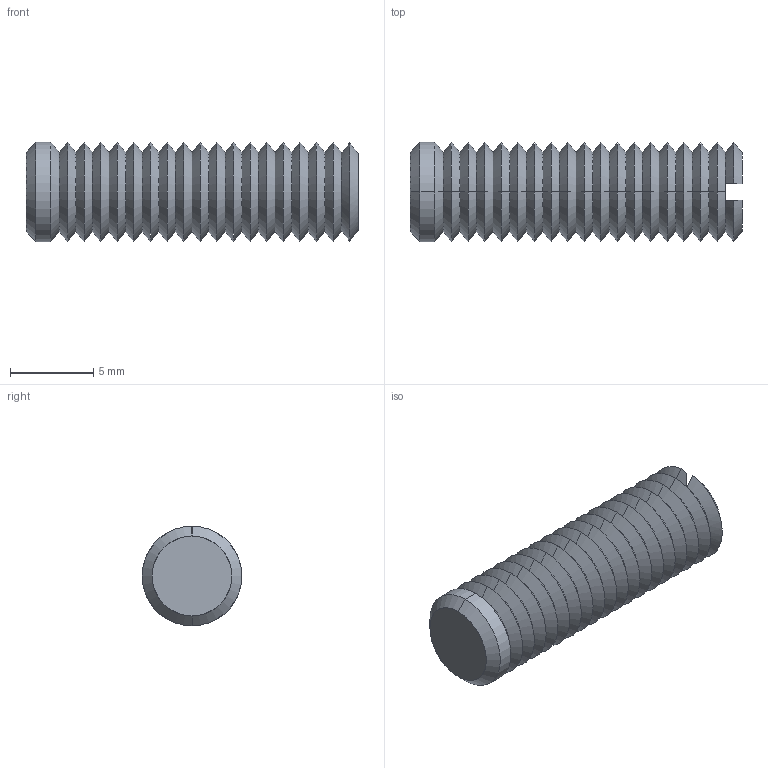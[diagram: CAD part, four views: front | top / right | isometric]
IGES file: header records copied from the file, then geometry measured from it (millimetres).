
Start section: SolidWorks IGES file using analytic representation for surfaces
Global section: file name: C:\Documents and Settings\IANO\Desktop\Temp File\Process pending\EXISTING\34300_v2\34300_v2_20170622_IGES\34300.W0060.igs; native system: SolidWorks 2009; preprocessor: SolidWorks 2009; author: IANO; date: 170622.093533; units: millimetre
Bounding box: 20 x 6 x 6 mm (x, y, z)
Surface area: 574.4 mm2 (no closed solid volume)
Topology: 0 solids, 0 shells, 84 faces, 400 edges, 400 vertices
Faces by surface type: revolution 78, bspline 6
